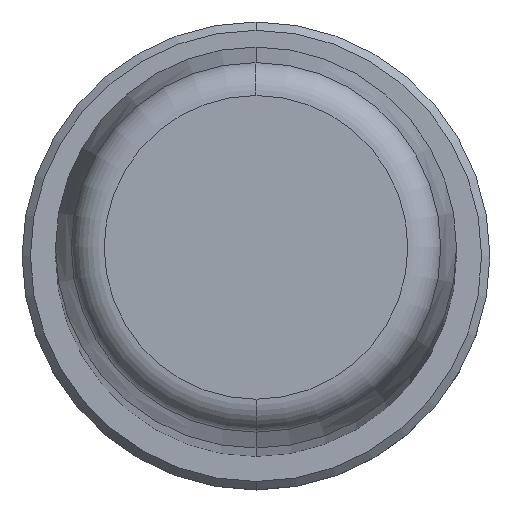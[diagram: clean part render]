
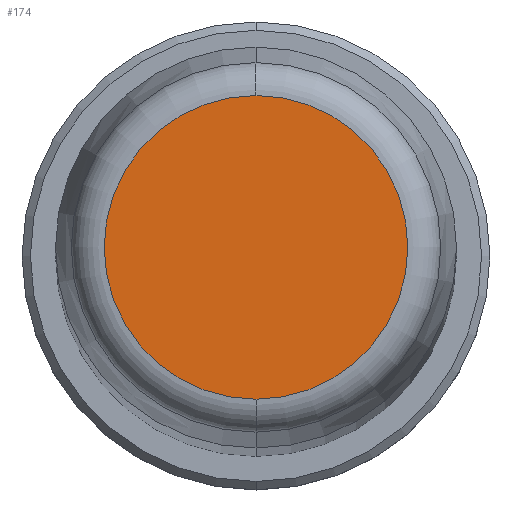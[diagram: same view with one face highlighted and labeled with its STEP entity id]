
A CAD part, top view. The second image highlights one B-rep face of the part: STEP entity #174.
In plain terms, the highlighted planar face has unit normal (0, 0, 1).
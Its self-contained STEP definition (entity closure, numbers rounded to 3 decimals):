
#1=CARTESIAN_POINT('',(0.,0.,300.));
#2=DIRECTION('',(0.,0.,-1.));
#3=DIRECTION('',(0.,-1.,0.));
#4=AXIS2_PLACEMENT_3D('',#1,#2,#3);
#6=CARTESIAN_POINT('',(0.,0.,300.));
#7=DIRECTION('',(0.,0.,-1.));
#8=DIRECTION('',(0.,1.,0.));
#9=AXIS2_PLACEMENT_3D('',#6,#7,#8);
#159=CARTESIAN_POINT('',(0.,-9.088,300.));
#160=CARTESIAN_POINT('',(0.,9.088,300.));
#161=VERTEX_POINT('',#159);
#162=VERTEX_POINT('',#160);
#163=CARTESIAN_POINT('',(0.,0.,300.));
#164=DIRECTION('',(0.,0.,1.));
#165=DIRECTION('',(0.,-1.,0.));
#166=AXIS2_PLACEMENT_3D('',#163,#164,#165);
#167=PLANE('',#166);
#169=ORIENTED_EDGE('',*,*,#168,.T.);
#171=ORIENTED_EDGE('',*,*,#170,.T.);
#172=EDGE_LOOP('',(#169,#171));
#173=FACE_OUTER_BOUND('',#172,.F.);
#174=ADVANCED_FACE('',(#173),#167,.T.);
#5=CIRCLE('',#4,9.088);
#10=CIRCLE('',#9,9.088);
#168=EDGE_CURVE('',#161,#162,#5,.T.);
#170=EDGE_CURVE('',#162,#161,#10,.T.);
